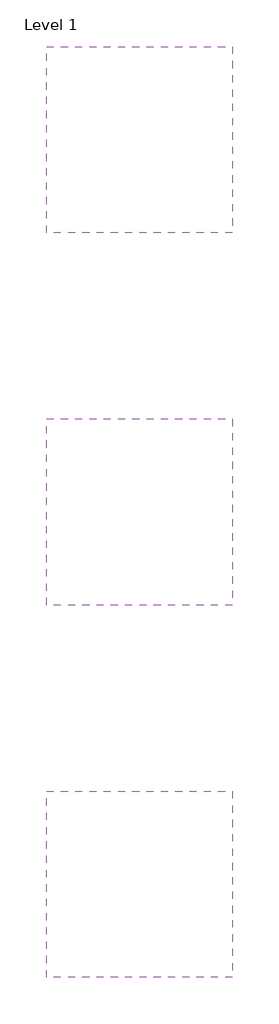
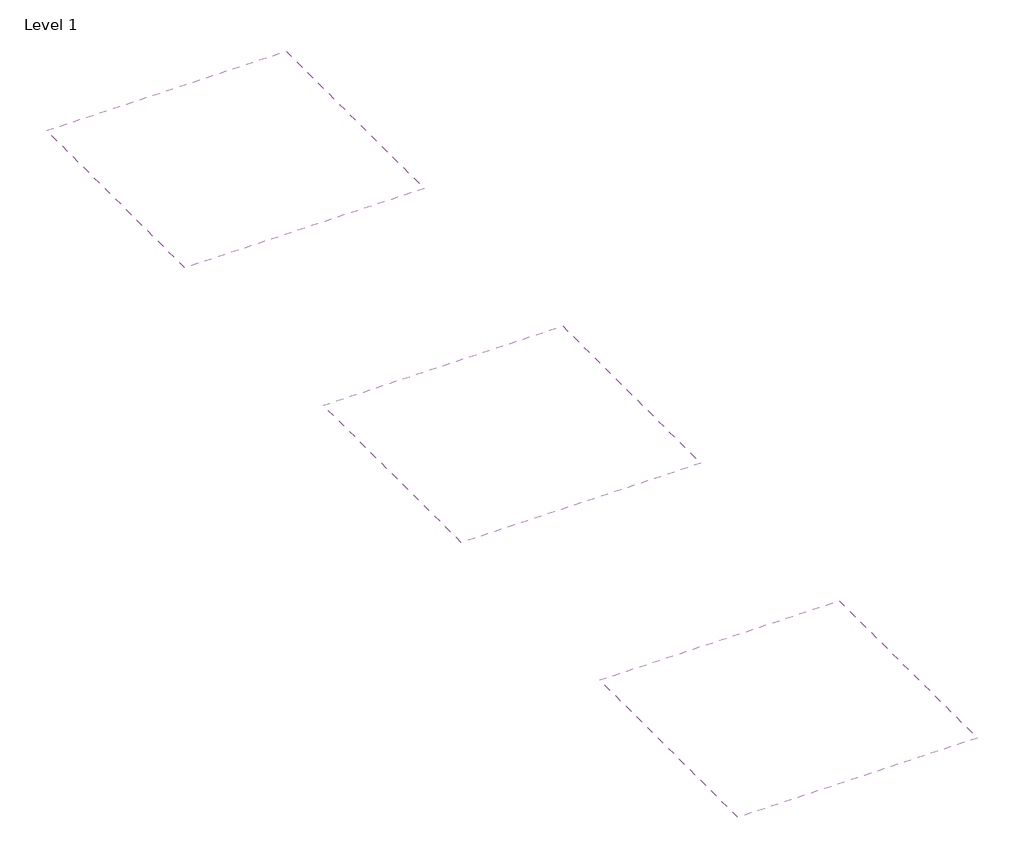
# One storey: 3 coverings.
"""IFC4 building model written with IfcOpenShell, lengths in millimetres."""

from ifc_helpers import new_model, si_unit, frame, origin, place, context, project, spatial, polyline, outline, extrude, element, save

model = new_model("IFC4")

# Units and contexts
model_context = context("Model", 3, world=origin())
ifc_project = project(units=[si_unit("LENGTHUNIT", "METRE", prefix="MILLI")], contexts=[model_context])

# Site, building, storey
site = spatial("IfcSite", under=ifc_project)
building = spatial("IfcBuilding", under=site)
storey = spatial("IfcBuildingStorey", under=building, Name="Level 1", Elevation=0.0)

# Coverings
placement = place(None, origin())
element("IfcCovering", 1, ObjectType="NBS_ArmstrongCeilingsLtd_UnitModularSuspendedCeilingSystem_Ultima+dBTegular-Prelude24Exposed_600x600x19mm_GB", at=placement, inside=storey, context=model_context, shape_type="SweptSolid", body=[
    extrude(outline(polyline([(2500.0, 17500.0), (2500.0, 15000.0), (0.0, 15000.0), (0.0, 17500.0), (2500.0, 17500.0)])), frame((0.0, 0.0, 2600.0), z_axis=(0.0, 0.0, 1.0), x_axis=(1.0, 0.0, 0.0)), (0.0, 0.0, 1.0), 51.0),
])
element("IfcCovering", 2, ObjectType="NBS_ArmstrongCeilingsLtd_UnitModularSuspendedCeilingSystem_Ultima+dBTegular-Prelude24Exposed_625x625x19mm_DE", at=placement, inside=storey, context=model_context, shape_type="SweptSolid", body=[
    extrude(outline(polyline([(2500.0, 12500.0), (2500.0, 10000.0), (0.0, 10000.0), (0.0, 12500.0), (2500.0, 12500.0)])), frame((0.0, 0.0, 2600.0), z_axis=(0.0, 0.0, 1.0), x_axis=(1.0, 0.0, 0.0)), (0.0, 0.0, 1.0), 51.0),
])
element("IfcCovering", 3, ObjectType="NBS_ArmstrongCeilingsLtd_UnitModularSuspendedCeilingSystem_Ultima+dBTegular-Prelude24Exposed_675x675x19mm_FR", at=placement, inside=storey, context=model_context, shape_type="SweptSolid", body=[
    extrude(outline(polyline([(2500.0, 7500.0), (2500.0, 5000.0), (0.0, 5000.0), (0.0, 7500.0), (2500.0, 7500.0)])), frame((0.0, 0.0, 2600.0), z_axis=(0.0, 0.0, 1.0), x_axis=(1.0, 0.0, 0.0)), (0.0, 0.0, 1.0), 51.0),
])

save(model, "model.ifc")
